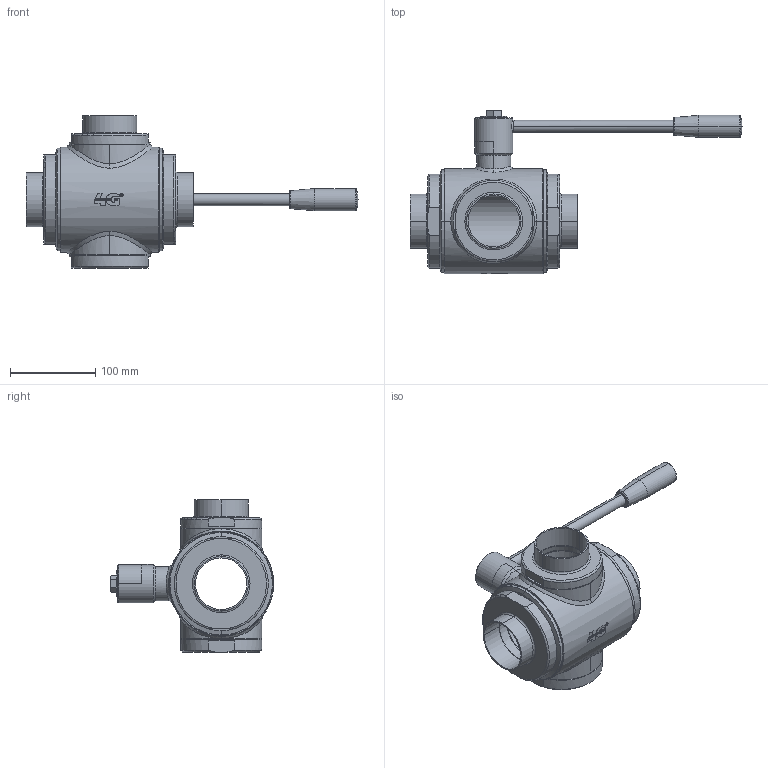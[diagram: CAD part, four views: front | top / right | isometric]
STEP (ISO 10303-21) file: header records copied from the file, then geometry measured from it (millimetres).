
FILE_DESCRIPTION((''),'2;1');
FILE_NAME('3001426R710_SW0001','2026-01-28T09:13:32',('tecnico2'),('CDM Tecnoconsulting'),'CREO PARAMETRIC BY PTC INC, 2024063','CREO PARAMETRIC BY PTC INC, 2024063','');
FILE_SCHEMA(('CONFIG_CONTROL_DESIGN','SHAPE_APPEARANCE_LAYERS_GROUPS'));
Products named in the file (1): 3001426R710_SW0001
Bounding box: 388.5 x 191.3 x 178 mm (x, y, z)
Volume: 1405425.1 mm3; surface area: 274964 mm2
Topology: 1 solids, 1 shells, 1014 faces, 2722 edges, 1728 vertices
Faces by surface type: plane 448, cylinder 219, cone 124, extrusion 112, bspline 57, torus 48, sphere 6
Entity records: 62595 total; most frequent: CARTESIAN_POINT 27753, ORIENTED_EDGE 5408, DIRECTION 4503, PRESENTATION_STYLE_ASSIGNMENT 3045, STYLED_ITEM 2761, CURVE_STYLE 2760, EDGE_CURVE 2704, VERTEX_POINT 1728
